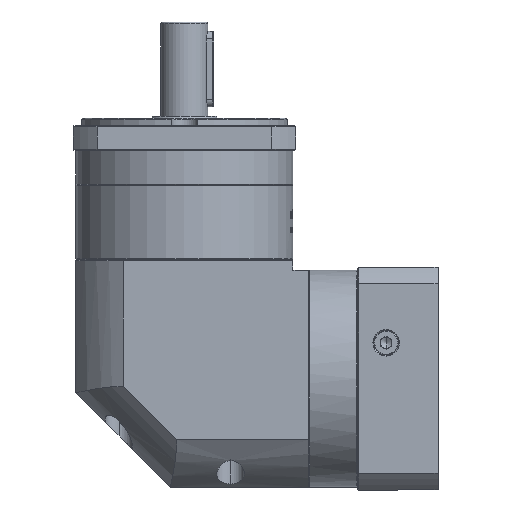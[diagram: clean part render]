
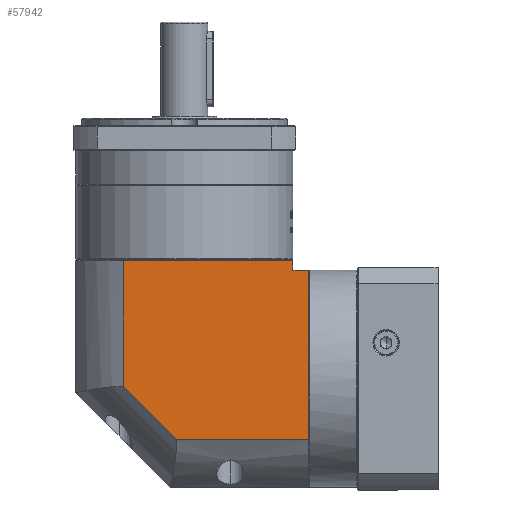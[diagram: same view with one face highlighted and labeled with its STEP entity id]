
A CAD part, left-side view. The second image highlights one B-rep face of the part: STEP entity #57942.
In plain terms, the highlighted planar face has unit normal (-1, 0, 0).
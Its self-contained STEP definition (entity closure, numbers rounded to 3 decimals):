
#7223 = ORIENTED_EDGE ( 'NONE', *, *, #70451, .T. ) ;
#11929 = LINE ( 'NONE', #76645, #32470 ) ;
#13952 = LINE ( 'NONE', #47962, #112440 ) ;
#17436 = LINE ( 'NONE', #92121, #27669 ) ;
#24084 = EDGE_CURVE ( 'NONE', #148056, #120034, #50728, .T. ) ;
#26080 = CARTESIAN_POINT ( 'NONE',  ( -224.318, 14.379, 138.428 ) ) ;
#27669 = VECTOR ( 'NONE', #158554, 1000. ) ;
#27778 = VERTEX_POINT ( 'NONE', #34076 ) ;
#32470 = VECTOR ( 'NONE', #90451, 1000. ) ;
#34076 = CARTESIAN_POINT ( 'NONE',  ( -224.318, -10.721, 65.367 ) ) ;
#38661 = DIRECTION ( 'NONE',  ( 1., 0., 0. ) ) ;
#40493 = VECTOR ( 'NONE', #162012, 1000. ) ;
#47324 = ORIENTED_EDGE ( 'NONE', *, *, #144878, .T. ) ;
#47962 = CARTESIAN_POINT ( 'NONE',  ( -224.318, -39.059, 37.029 ) ) ;
#50728 = LINE ( 'NONE', #163124, #40493 ) ;
#55653 = LINE ( 'NONE', #56338, #82291 ) ;
#55854 = AXIS2_PLACEMENT_3D ( 'NONE', #26080, #38661, #105246 ) ;
#56338 = CARTESIAN_POINT ( 'NONE',  ( -224.318, -10.721, 138.428 ) ) ;
#57942 = ADVANCED_FACE ( 'NONE', ( #152406 ), #169913, .F. ) ;
#61751 = DIRECTION ( 'NONE',  ( 0., 0.707, 0.707 ) ) ;
#65701 = VECTOR ( 'NONE', #80132, 1000. ) ;
#68487 = ORIENTED_EDGE ( 'NONE', *, *, #131025, .F. ) ;
#69521 = VERTEX_POINT ( 'NONE', #167082 ) ;
#69726 = EDGE_CURVE ( 'NONE', #27778, #85610, #55653, .T. ) ;
#70451 = EDGE_CURVE ( 'NONE', #69521, #118962, #11929, .T. ) ;
#76645 = CARTESIAN_POINT ( 'NONE',  ( -224.318, -100.621, 126.928 ) ) ;
#78705 = VECTOR ( 'NONE', #163173, 1000. ) ;
#80132 = DIRECTION ( 'NONE',  ( 0., 0., -1. ) ) ;
#82291 = VECTOR ( 'NONE', #82710, 1000. ) ;
#82710 = DIRECTION ( 'NONE',  ( 0., 0., 1. ) ) ;
#83979 = CARTESIAN_POINT ( 'NONE',  ( -224.318, -10.721, 131.928 ) ) ;
#84239 = ORIENTED_EDGE ( 'NONE', *, *, #84418, .F. ) ;
#84418 = EDGE_CURVE ( 'NONE', #85610, #118875, #17436, .T. ) ;
#84810 = LINE ( 'NONE', #108227, #78705 ) ;
#85610 = VERTEX_POINT ( 'NONE', #83979 ) ;
#90451 = DIRECTION ( 'NONE',  ( 0., 1., 0. ) ) ;
#92121 = CARTESIAN_POINT ( 'NONE',  ( -224.318, 14.379, 131.928 ) ) ;
#105246 = DIRECTION ( 'NONE',  ( 0., 1., 0. ) ) ;
#108227 = CARTESIAN_POINT ( 'NONE',  ( -224.318, -100.621, 11.928 ) ) ;
#112440 = VECTOR ( 'NONE', #61751, 1000. ) ;
#113099 = ORIENTED_EDGE ( 'NONE', *, *, #165649, .F. ) ;
#118875 = VERTEX_POINT ( 'NONE', #147676 ) ;
#118962 = VERTEX_POINT ( 'NONE', #161959 ) ;
#120034 = VERTEX_POINT ( 'NONE', #138044 ) ;
#123412 = EDGE_LOOP ( 'NONE', ( #141320, #68487, #129367, #113099, #7223, #47324, #84239 ) ) ;
#129367 = ORIENTED_EDGE ( 'NONE', *, *, #24084, .F. ) ;
#131025 = EDGE_CURVE ( 'NONE', #120034, #27778, #13952, .T. ) ;
#138044 = CARTESIAN_POINT ( 'NONE',  ( -224.318, -39.059, 37.029 ) ) ;
#141320 = ORIENTED_EDGE ( 'NONE', *, *, #69726, .F. ) ;
#141680 = LINE ( 'NONE', #146620, #65701 ) ;
#144878 = EDGE_CURVE ( 'NONE', #118962, #118875, #84810, .T. ) ;
#146620 = CARTESIAN_POINT ( 'NONE',  ( -224.318, -109.021, 138.428 ) ) ;
#147676 = CARTESIAN_POINT ( 'NONE',  ( -224.318, -100.621, 131.928 ) ) ;
#148056 = VERTEX_POINT ( 'NONE', #162708 ) ;
#152406 = FACE_OUTER_BOUND ( 'NONE', #123412, .T. ) ;
#158554 = DIRECTION ( 'NONE',  ( 0., -1., 0. ) ) ;
#161959 = CARTESIAN_POINT ( 'NONE',  ( -224.318, -100.621, 126.928 ) ) ;
#162012 = DIRECTION ( 'NONE',  ( 0., 1., 0. ) ) ;
#162708 = CARTESIAN_POINT ( 'NONE',  ( -224.318, -109.021, 37.029 ) ) ;
#163124 = CARTESIAN_POINT ( 'NONE',  ( -224.318, 14.379, 37.029 ) ) ;
#163173 = DIRECTION ( 'NONE',  ( 0., 0., 1. ) ) ;
#165649 = EDGE_CURVE ( 'NONE', #69521, #148056, #141680, .T. ) ;
#167082 = CARTESIAN_POINT ( 'NONE',  ( -224.318, -109.021, 126.928 ) ) ;
#169913 = PLANE ( 'NONE',  #55854 ) ;
